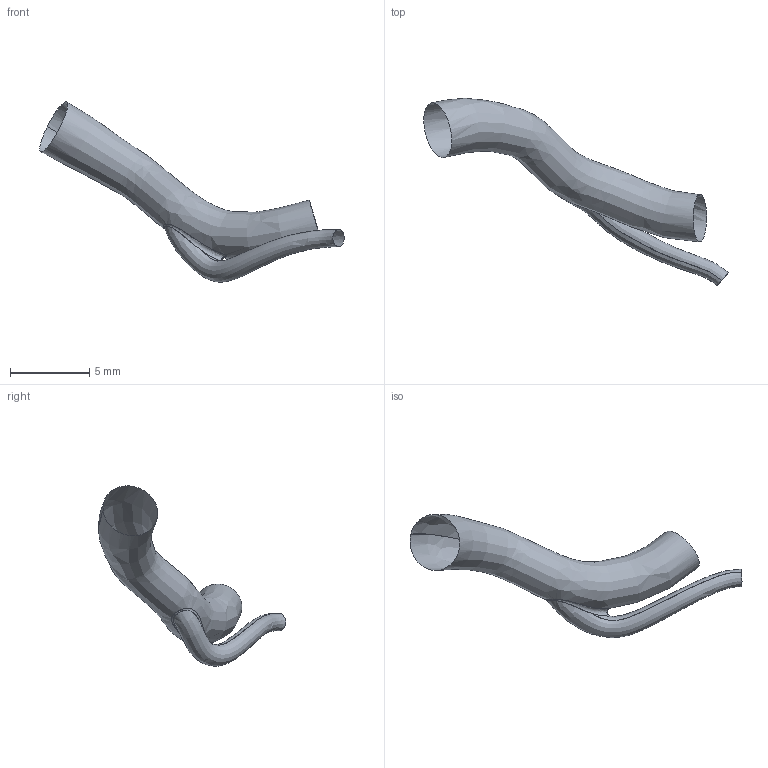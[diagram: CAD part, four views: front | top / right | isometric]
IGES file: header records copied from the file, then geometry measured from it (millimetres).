
Global section: file name: C:\Documents and Settings\Administrator\Desktop\FDA-Pig\Domestic RCA\Pig_000005\rv.es.igs; native system: Rhinoceros ( May 19 2006 ); preprocessor: Trout Lake IGES 012 May 19 2006; date: 111205.185218; units: centimetre
Bounding box: 19.2 x 11.81 x 11.37 mm (x, y, z)
Surface area: 238.7 mm2 (no closed solid volume)
Topology: 0 solids, 0 shells, 3 faces, 50 edges, 47 vertices
Faces by surface type: bspline 3
